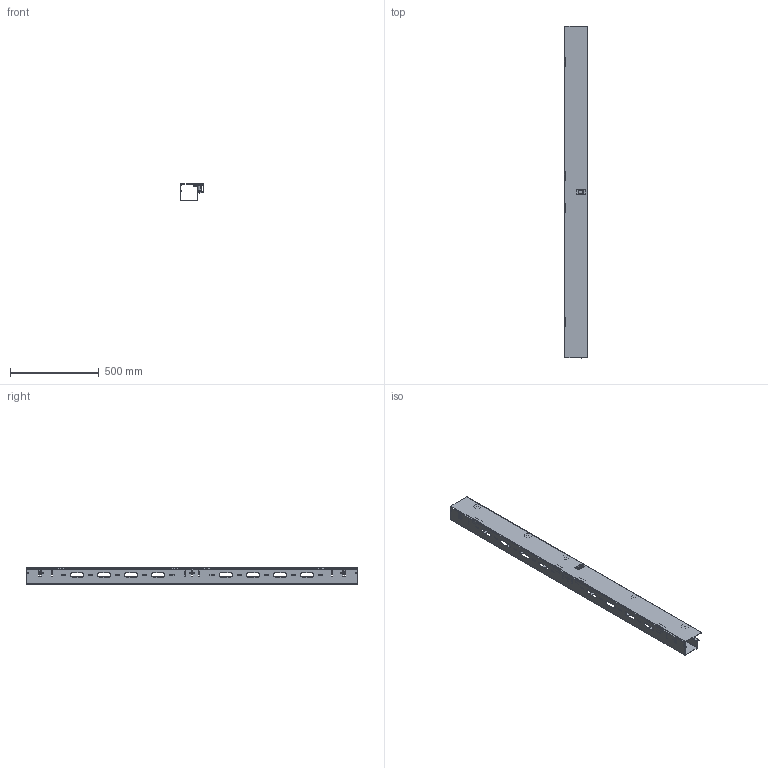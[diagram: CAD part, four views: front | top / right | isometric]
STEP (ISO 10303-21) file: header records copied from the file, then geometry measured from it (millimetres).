
FILE_DESCRIPTION((''),'2;1');
FILE_NAME('/scratch/goby/ideasadm/10981.stp','2011-06-16T10:13:07',( 'User'),('SDRC'),'I-DEAS Master Series 9','UNIX','Yes');
FILE_SCHEMA(('AUTOMOTIVE_DESIGN { 1 0 10303 214 0 1 1 1 }'));
Length unit declared in the file: inch
Products named in the file (10): 10981; spool; 87561874; 87561756; 87562944; screw_panhd_1032_500; screw_hexwshd_1032_375; slidelatch; assy_hinge; 43108001
Assembly tree (21 placements, depth 3):
  10981
    spool  x5
    87561874
    87561756
    87562944
    screw_panhd_1032_500  x5
    screw_hexwshd_1032_375
    slidelatch
    assy_hinge  x4
      43108001
Bounding box: 134.14 x 1867.41 x 95.3 mm (x, y, z)
Volume: 1177423.6 mm3; surface area: 1415867.6 mm2
Topology: 23 solids, 23 shells, 948 faces, 2444 edges, 1546 vertices
Faces by surface type: bspline 948
Entity records: 22154 total; most frequent: CARTESIAN_POINT 10508, ORIENTED_EDGE 3408, EDGE_CURVE 1704, VERTEX_POINT 1059, EDGE_LOOP 935, QUASI_UNIFORM_CURVE 738, FACE_OUTER_BOUND 648, ADVANCED_FACE 648
